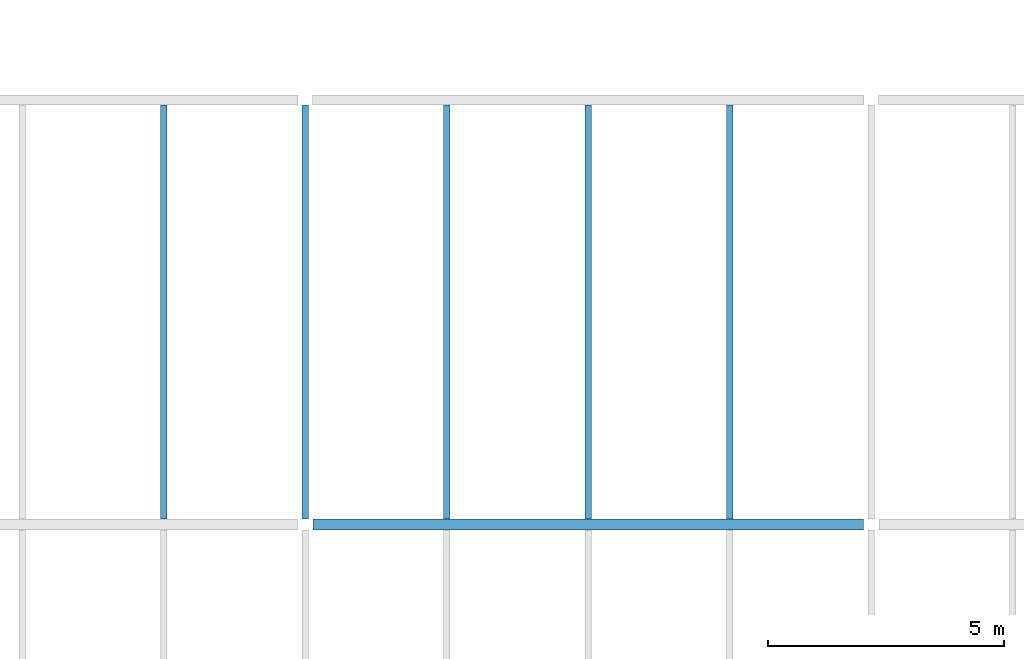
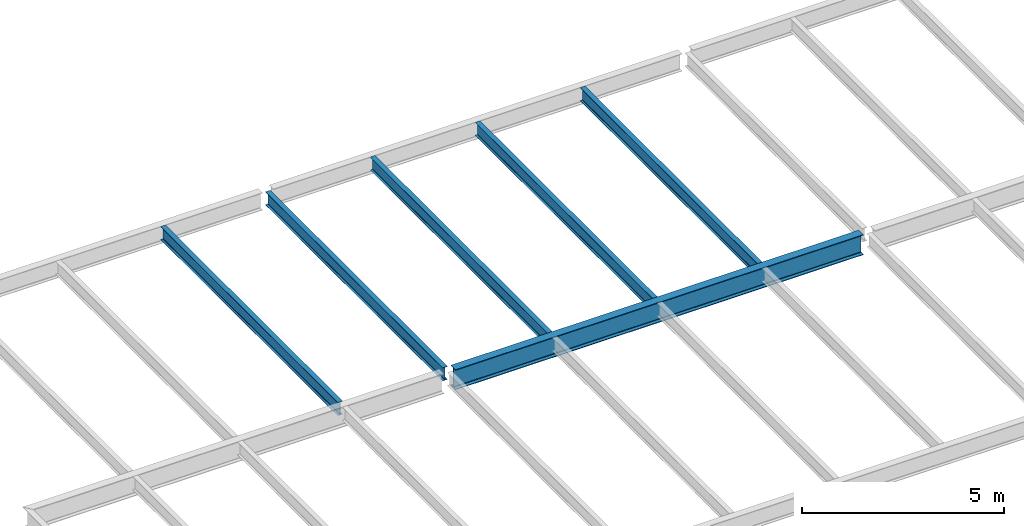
# One storey, part 12 of 21: 6 beams.
"""IFC2X3 building model written with IfcOpenShell, lengths in millimetres."""

import ifcopenshell
import ifcopenshell.guid

model = None  # the IFC model being written
_history = None  # IfcOwnerHistory: only IFC2X3 demands one
_inside = {}  # id of a spatial element -> (the spatial element, [elements in it])
_under = {}  # id of a project, library or spatial element -> (it, [spatial elements below it])
_declared = {}  # id of a project -> (the project, [libraries it declares])
_typed = {}  # id of a type object -> (the type object, [elements of that type])
_made_of = {}  # id of a material, layer set ... -> (it, [elements and type objects made of it])


def new_model(schema):
    """Start an empty IFC model of exactly this schema.

    Asked for "IFC4X3", IfcOpenShell would pick the latest addendum, in which some entities
    have other attributes; the version numbers below select the first issue.
    IFC2X3 requires an IfcOwnerHistory on every rooted entity: one is made here for all.
    """
    global model, _history
    if schema == "IFC4X3":
        model = ifcopenshell.file(schema_version=(4, 3, 0, 0))
    else:
        model = ifcopenshell.file(schema=schema)
    _inside.clear()
    _under.clear()
    _declared.clear()
    _typed.clear()
    _made_of.clear()
    _history = None
    if model.schema == "IFC2X3":
        org = make("IfcOrganization", Name="unknown")
        user = make(
            "IfcPersonAndOrganization",
            ThePerson=make("IfcPerson", FamilyName="unknown"),
            TheOrganization=org,
        )
        app = make(
            "IfcApplication",
            ApplicationDeveloper=org,
            Version="unknown",
            ApplicationFullName="unknown",
            ApplicationIdentifier="unknown",
        )
        _history = make(
            "IfcOwnerHistory",
            OwningUser=user,
            OwningApplication=app,
            ChangeAction="ADDED",
            CreationDate=0,
        )
    return model


def make(cls, **values):
    """One entity of the class cls with the attributes given. An attribute that is None is left unset."""
    return model.create_entity(
        cls, **{name: value for name, value in values.items() if value is not None}
    )


def rooted(cls, **values):
    """An entity with a GlobalId (a new one), such as an element, a storey or a relation."""
    return make(cls, GlobalId=ifcopenshell.guid.new(), OwnerHistory=_history, **values)


def si_unit(unit_type, name, prefix=None):
    """IfcSIUnit, for example si_unit("LENGTHUNIT", "METRE", prefix="MILLI")."""
    return make("IfcSIUnit", UnitType=unit_type, Prefix=prefix, Name=name)


def assignment(units):
    """IfcUnitAssignment: the units of a project."""
    return None if units is None else make("IfcUnitAssignment", Units=units)


def point(xyz):
    """IfcCartesianPoint."""
    return None if xyz is None else make("IfcCartesianPoint", Coordinates=xyz)


def direction(xyz):
    """IfcDirection."""
    return None if xyz is None else make("IfcDirection", DirectionRatios=xyz)


def frame(location, z_axis=None, x_axis=None):
    """IfcAxis2Placement3D, a coordinate frame: its origin and axes. An axis left out is left unset."""
    return make(
        "IfcAxis2Placement3D",
        Location=point(location),
        Axis=direction(z_axis),
        RefDirection=direction(x_axis),
    )


def origin():
    """The frame at (0, 0, 0) with its axes left unset."""
    return frame((0.0, 0.0, 0.0))


def place(relative_to, where):
    """IfcLocalPlacement: puts the frame where relative to a parent placement (None: the world)."""
    return make(
        "IfcLocalPlacement", PlacementRelTo=relative_to, RelativePlacement=where
    )


def context(
    kind, dimensions, precision=None, world=None, true_north=None, identifier=None
):
    """IfcGeometricRepresentationContext, for example the 3D "Model" context."""
    return make(
        "IfcGeometricRepresentationContext",
        ContextIdentifier=identifier,
        ContextType=kind,
        CoordinateSpaceDimension=dimensions,
        Precision=precision,
        WorldCoordinateSystem=world,
        TrueNorth=true_north,
    )


def project(units=None, contexts=None):
    """IfcProject with its units and contexts."""
    return rooted(
        "IfcProject",
        Name="project",
        RepresentationContexts=contexts,
        UnitsInContext=assignment(units),
    )


def spatial(cls, under=None, at=None, **own):
    """A site, building, storey or space (cls), placed at a placement, below another one or the project."""
    s = rooted(cls, ObjectPlacement=at, **own)
    if under is not None:
        _under.setdefault(under.id(), (under, []))[1].append(s)
    return s


def faces_of(points, faces, orient=None, outer=None):
    """IfcFace entities. A face is a list of loops; a loop is a list of indices into points, from 0.

    orient and outer hold one flag for each loop. By default every Orientation is true, the
    first loop of a face is its IfcFaceOuterBound and the others are IfcFaceBound.
    """
    made = []
    for i, loops in enumerate(faces):
        bounds = []
        for j, loop in enumerate(loops):
            is_outer = j == 0 if outer is None else outer[i][j]
            bounds.append(
                make(
                    "IfcFaceOuterBound" if is_outer else "IfcFaceBound",
                    Bound=make("IfcPolyLoop", Polygon=[points[k] for k in loop]),
                    Orientation=True if orient is None else orient[i][j],
                )
            )
        made.append(make("IfcFace", Bounds=bounds))
    return made


def faceted_brep(points, faces, orient=None, outer=None, voids=None):
    """IfcFacetedBrep: a solid bounded by flat faces; with voids (closed shells), ...WithVoids."""
    shared = [point(p) for p in points]
    hull = make("IfcClosedShell", CfsFaces=faces_of(shared, faces, orient, outer))
    if voids is None:
        return make("IfcFacetedBrep", Outer=hull)
    return make(
        "IfcFacetedBrepWithVoids",
        Outer=hull,
        Voids=[
            make(cls, CfsFaces=faces_of(shared, fs, o, b)) for cls, fs, o, b in voids
        ],
    )


def shape(context_of_items, identifier, shape_type, items):
    """IfcShapeRepresentation: the items that make up one representation, for example the "Body"."""
    return make(
        "IfcShapeRepresentation",
        ContextOfItems=context_of_items,
        RepresentationIdentifier=identifier,
        RepresentationType=shape_type,
        Items=items,
    )


def material(Name=None, Category=None):
    """IfcMaterial."""
    return make("IfcMaterial", Name=Name, Category=Category)


def made_of(thing, what):
    """Note that an element or type object is made of a material, layer set ...; save() writes the relation."""
    if what is not None:
        _made_of.setdefault(what.id(), (what, []))[1].append(thing)
    return thing


def element(
    cls,
    number,
    at=None,
    inside=None,
    cuts=None,
    type_object=None,
    material=None,
    context=None,
    identifier="Body",
    shape_type=None,
    held_by="IfcProductDefinitionShape",
    body=None,
    shapes=None,
    **own,
):
    """One element of the class cls, such as IfcWall. Its Tag is "e" and its number.

    at: its placement. inside: the storey or other place that contains it. cuts: it is an
    opening in that element (IfcRelVoidsElement). A single representation is given by context,
    identifier, shape_type and body (its items); several are given by shapes. held_by: the class
    of the entity that holds the representations. save() writes the other relations.
    """
    e = rooted(cls, Tag="e%d" % number, ObjectPlacement=at, **own)
    if body is not None:
        shapes = [shape(context, identifier, shape_type, body)]
    if shapes is not None:
        e.Representation = make(held_by, Representations=shapes)
    if inside is not None:
        _inside.setdefault(inside.id(), (inside, []))[1].append(e)
    if cuts is not None:
        rooted(
            "IfcRelVoidsElement", RelatingBuildingElement=cuts, RelatedOpeningElement=e
        )
    if type_object is not None:
        _typed.setdefault(type_object.id(), (type_object, []))[1].append(e)
    return made_of(e, material)


def aggregate(whole, parts):
    """IfcRelAggregates: a whole, such as a stair, and the parts it consists of."""
    return rooted("IfcRelAggregates", RelatingObject=whole, RelatedObjects=parts)


def save(model, path):
    """Write the relations noted so far, then the file.

    IfcRelAggregates (storeys below a building ...), IfcRelContainedInSpatialStructure (elements
    in a storey), IfcRelDefinesByType, IfcRelAssociatesMaterial and IfcRelDeclares: one each for
    every whole, place, type object, material and project.
    """
    for whole, parts in _under.values():
        aggregate(whole, parts)
    for where, things in _inside.values():
        rooted(
            "IfcRelContainedInSpatialStructure",
            RelatedElements=things,
            RelatingStructure=where,
        )
    for kind, things in _typed.values():
        rooted("IfcRelDefinesByType", RelatedObjects=things, RelatingType=kind)
    for what, things in _made_of.values():
        rooted("IfcRelAssociatesMaterial", RelatedObjects=things, RelatingMaterial=what)
    for by, libraries in _declared.values():
        rooted("IfcRelDeclares", RelatingContext=by, RelatedDefinitions=libraries)
    model.write(path)


model = new_model("IFC2X3")

# Units and contexts
context_of_model = context(None, 3, precision=1e-05, world=origin())
ifc_project = project(units=[si_unit("LENGTHUNIT", "METRE", prefix="MILLI")], contexts=[context_of_model])

# Building, storey
building = spatial("IfcBuilding", under=ifc_project, Name="Building", CompositionType="ELEMENT")
storey = spatial("IfcBuildingStorey", under=building, Name="FL3-FRM", CompositionType="ELEMENT")

# Beams
ifc_material_1 = material(Name="A992")
beam_1_placement = place(None, origin())
element("IfcBeam", 1, at=beam_1_placement, inside=storey, material=ifc_material_1, Name="Column469", context=context_of_model, shape_type="Brep", body=[
    faceted_brep([(24166.5, 17885.5, 8261.0), (24166.5, 18114.5, 8261.0), (35833.5, 18114.5, 8261.0), (35833.5, 17885.5, 8261.0), (24166.5, 18114.5, 8280.6), (35833.5, 18114.5, 8280.6), (24166.5, 18018.6, 8280.6), (35833.5, 18018.6, 8280.6), (24166.5, 18015.4, 8281.03), (35833.5, 18015.4, 8281.03), (24166.5, 18012.3, 8282.3), (35833.5, 18012.3, 8282.3), (24166.5, 18009.7, 8284.32), (35833.5, 18009.7, 8284.32), (24166.5, 18007.7, 8286.95), (35833.5, 18007.7, 8286.95), (24166.5, 18006.4, 8290.01), (35833.5, 18006.4, 8290.01), (24166.5, 18005.9, 8293.3), (35833.5, 18005.9, 8293.3), (24166.5, 18005.9, 8840.7), (35833.5, 18005.9, 8840.7), (24166.5, 18006.4, 8843.99), (35833.5, 18006.4, 8843.99), (24166.5, 18007.7, 8847.05), (35833.5, 18007.7, 8847.05), (24166.5, 18009.7, 8849.68), (35833.5, 18009.7, 8849.68), (24166.5, 18012.3, 8851.7), (35833.5, 18012.3, 8851.7), (24166.5, 18015.4, 8852.97), (35833.5, 18015.4, 8852.97), (24166.5, 18018.6, 8853.4), (35833.5, 18018.6, 8853.4), (24166.5, 18114.5, 8853.4), (35833.5, 18114.5, 8853.4), (24166.5, 18114.5, 8873.0), (35833.5, 18114.5, 8873.0), (24166.5, 17885.5, 8873.0), (35833.5, 17885.5, 8873.0), (24166.5, 17885.5, 8853.4), (35833.5, 17885.5, 8853.4), (24166.5, 17981.4, 8853.4), (35833.5, 17981.4, 8853.4), (24166.5, 17984.6, 8852.97), (35833.5, 17984.6, 8852.97), (24166.5, 17987.7, 8851.7), (35833.5, 17987.7, 8851.7), (24166.5, 17990.3, 8849.68), (35833.5, 17990.3, 8849.68), (24166.5, 17992.3, 8847.05), (35833.5, 17992.3, 8847.05), (24166.5, 17993.6, 8843.99), (35833.5, 17993.6, 8843.99), (24166.5, 17994.1, 8840.7), (35833.5, 17994.1, 8840.7), (24166.5, 17994.1, 8293.3), (35833.5, 17994.1, 8293.3), (24166.5, 17993.6, 8290.01), (35833.5, 17993.6, 8290.01), (24166.5, 17992.3, 8286.95), (35833.5, 17992.3, 8286.95), (24166.5, 17990.3, 8284.32), (35833.5, 17990.3, 8284.32), (24166.5, 17987.7, 8282.3), (35833.5, 17987.7, 8282.3), (24166.5, 17984.6, 8281.03), (35833.5, 17984.6, 8281.03), (24166.5, 17981.4, 8280.6), (35833.5, 17981.4, 8280.6), (24166.5, 17885.5, 8280.6), (35833.5, 17885.5, 8280.6)], [[[0, 1, 2, 3]], [[1, 4, 5, 2]], [[4, 6, 7, 5]], [[6, 8, 9, 7]], [[8, 10, 11, 9]], [[10, 12, 13, 11]], [[12, 14, 15, 13]], [[14, 16, 17, 15]], [[16, 18, 19, 17]], [[18, 20, 21, 19]], [[20, 22, 23, 21]], [[22, 24, 25, 23]], [[24, 26, 27, 25]], [[26, 28, 29, 27]], [[28, 30, 31, 29]], [[30, 32, 33, 31]], [[32, 34, 35, 33]], [[34, 36, 37, 35]], [[36, 38, 39, 37]], [[38, 40, 41, 39]], [[40, 42, 43, 41]], [[42, 44, 45, 43]], [[44, 46, 47, 45]], [[46, 48, 49, 47]], [[48, 50, 51, 49]], [[50, 52, 53, 51]], [[52, 54, 55, 53]], [[54, 56, 57, 55]], [[56, 58, 59, 57]], [[58, 60, 61, 59]], [[60, 62, 63, 61]], [[62, 64, 65, 63]], [[64, 66, 67, 65]], [[66, 68, 69, 67]], [[68, 70, 71, 69]], [[70, 0, 3, 71]], [[0, 70, 68, 66, 64, 62, 60, 58, 56, 54, 52, 50, 48, 46, 44, 42, 40, 38, 36, 34, 32, 30, 28, 26, 24, 22, 20, 18, 16, 14, 12, 10, 8, 6, 4, 1]], [[3, 2, 5, 7, 9, 11, 13, 15, 17, 19, 21, 23, 25, 27, 29, 31, 33, 35, 37, 39, 41, 43, 45, 47, 49, 51, 53, 55, 57, 59, 61, 63, 65, 67, 69, 71]]]),
])
ifc_material_2 = material(Name="A992")
beam_2_placement = place(None, origin())
element("IfcBeam", 2, at=beam_2_placement, inside=storey, material=ifc_material_2, Name="B447", context=context_of_model, shape_type="Brep", body=[
    faceted_brep([(26930.0, 26895.5, 8474.0), (27070.0, 26895.5, 8474.0), (27070.0, 18114.5, 8474.0), (26930.0, 18114.5, 8474.0), (27070.0, 26895.5, 8482.8), (27070.0, 18114.5, 8482.8), (27013.4, 26895.5, 8482.8), (27013.4, 18114.5, 8482.8), (27010.8, 26895.5, 8483.15), (27010.8, 18114.5, 8483.15), (27008.3, 26895.5, 8484.17), (27008.3, 18114.5, 8484.17), (27006.2, 26895.5, 8485.79), (27006.2, 18114.5, 8485.79), (27004.6, 26895.5, 8487.9), (27004.6, 18114.5, 8487.9), (27003.5, 26895.5, 8490.36), (27003.5, 18114.5, 8490.36), (27003.2, 26895.5, 8493.0), (27003.2, 18114.5, 8493.0), (27003.2, 26895.5, 8854.0), (27003.2, 18114.5, 8854.0), (27003.5, 26895.5, 8856.64), (27003.5, 18114.5, 8856.64), (27004.6, 26895.5, 8859.1), (27004.6, 18114.5, 8859.1), (27006.2, 26895.5, 8861.21), (27006.2, 18114.5, 8861.21), (27008.3, 26895.5, 8862.83), (27008.3, 18114.5, 8862.83), (27010.8, 26895.5, 8863.85), (27010.8, 18114.5, 8863.85), (27013.4, 26895.5, 8864.2), (27013.4, 18114.5, 8864.2), (27070.0, 26895.5, 8864.2), (27070.0, 18114.5, 8864.2), (27070.0, 26895.5, 8873.0), (27070.0, 18114.5, 8873.0), (26930.0, 26895.5, 8873.0), (26930.0, 18114.5, 8873.0), (26930.0, 26895.5, 8864.2), (26930.0, 18114.5, 8864.2), (26986.6, 26895.5, 8864.2), (26986.6, 18114.5, 8864.2), (26989.2, 26895.5, 8863.85), (26989.2, 18114.5, 8863.85), (26991.7, 26895.5, 8862.83), (26991.7, 18114.5, 8862.83), (26993.8, 26895.5, 8861.21), (26993.8, 18114.5, 8861.21), (26995.4, 26895.5, 8859.1), (26995.4, 18114.5, 8859.1), (26996.5, 26895.5, 8856.64), (26996.5, 18114.5, 8856.64), (26996.8, 26895.5, 8854.0), (26996.8, 18114.5, 8854.0), (26996.8, 26895.5, 8493.0), (26996.8, 18114.5, 8493.0), (26996.5, 26895.5, 8490.36), (26996.5, 18114.5, 8490.36), (26995.4, 26895.5, 8487.9), (26995.4, 18114.5, 8487.9), (26993.8, 26895.5, 8485.79), (26993.8, 18114.5, 8485.79), (26991.7, 26895.5, 8484.17), (26991.7, 18114.5, 8484.17), (26989.2, 26895.5, 8483.15), (26989.2, 18114.5, 8483.15), (26986.6, 26895.5, 8482.8), (26986.6, 18114.5, 8482.8), (26930.0, 26895.5, 8482.8), (26930.0, 18114.5, 8482.8)], [[[0, 1, 2, 3]], [[1, 4, 5, 2]], [[4, 6, 7, 5]], [[6, 8, 9, 7]], [[8, 10, 11, 9]], [[10, 12, 13, 11]], [[12, 14, 15, 13]], [[14, 16, 17, 15]], [[16, 18, 19, 17]], [[18, 20, 21, 19]], [[20, 22, 23, 21]], [[22, 24, 25, 23]], [[24, 26, 27, 25]], [[26, 28, 29, 27]], [[28, 30, 31, 29]], [[30, 32, 33, 31]], [[32, 34, 35, 33]], [[34, 36, 37, 35]], [[36, 38, 39, 37]], [[38, 40, 41, 39]], [[40, 42, 43, 41]], [[42, 44, 45, 43]], [[44, 46, 47, 45]], [[46, 48, 49, 47]], [[48, 50, 51, 49]], [[50, 52, 53, 51]], [[52, 54, 55, 53]], [[54, 56, 57, 55]], [[56, 58, 59, 57]], [[58, 60, 61, 59]], [[60, 62, 63, 61]], [[62, 64, 65, 63]], [[64, 66, 67, 65]], [[66, 68, 69, 67]], [[68, 70, 71, 69]], [[70, 0, 3, 71]], [[0, 70, 68, 66, 64, 62, 60, 58, 56, 54, 52, 50, 48, 46, 44, 42, 40, 38, 36, 34, 32, 30, 28, 26, 24, 22, 20, 18, 16, 14, 12, 10, 8, 6, 4, 1]], [[3, 2, 5, 7, 9, 11, 13, 15, 17, 19, 21, 23, 25, 27, 29, 31, 33, 35, 37, 39, 41, 43, 45, 47, 49, 51, 53, 55, 57, 59, 61, 63, 65, 67, 69, 71]]]),
])
ifc_material_3 = material(Name="A992")
beam_3_placement = place(None, origin())
element("IfcBeam", 3, at=beam_3_placement, inside=storey, material=ifc_material_3, Name="B450", context=context_of_model, shape_type="Brep", body=[
    faceted_brep([(29930.0, 26895.5, 8474.0), (30070.0, 26895.5, 8474.0), (30070.0, 18114.5, 8474.0), (29930.0, 18114.5, 8474.0), (30070.0, 26895.5, 8482.8), (30070.0, 18114.5, 8482.8), (30013.4, 26895.5, 8482.8), (30013.4, 18114.5, 8482.8), (30010.8, 26895.5, 8483.15), (30010.8, 18114.5, 8483.15), (30008.3, 26895.5, 8484.17), (30008.3, 18114.5, 8484.17), (30006.2, 26895.5, 8485.79), (30006.2, 18114.5, 8485.79), (30004.6, 26895.5, 8487.9), (30004.6, 18114.5, 8487.9), (30003.5, 26895.5, 8490.36), (30003.5, 18114.5, 8490.36), (30003.2, 26895.5, 8493.0), (30003.2, 18114.5, 8493.0), (30003.2, 26895.5, 8854.0), (30003.2, 18114.5, 8854.0), (30003.5, 26895.5, 8856.64), (30003.5, 18114.5, 8856.64), (30004.6, 26895.5, 8859.1), (30004.6, 18114.5, 8859.1), (30006.2, 26895.5, 8861.21), (30006.2, 18114.5, 8861.21), (30008.3, 26895.5, 8862.83), (30008.3, 18114.5, 8862.83), (30010.8, 26895.5, 8863.85), (30010.8, 18114.5, 8863.85), (30013.4, 26895.5, 8864.2), (30013.4, 18114.5, 8864.2), (30070.0, 26895.5, 8864.2), (30070.0, 18114.5, 8864.2), (30070.0, 26895.5, 8873.0), (30070.0, 18114.5, 8873.0), (29930.0, 26895.5, 8873.0), (29930.0, 18114.5, 8873.0), (29930.0, 26895.5, 8864.2), (29930.0, 18114.5, 8864.2), (29986.6, 26895.5, 8864.2), (29986.6, 18114.5, 8864.2), (29989.2, 26895.5, 8863.85), (29989.2, 18114.5, 8863.85), (29991.7, 26895.5, 8862.83), (29991.7, 18114.5, 8862.83), (29993.8, 26895.5, 8861.21), (29993.8, 18114.5, 8861.21), (29995.4, 26895.5, 8859.1), (29995.4, 18114.5, 8859.1), (29996.5, 26895.5, 8856.64), (29996.5, 18114.5, 8856.64), (29996.8, 26895.5, 8854.0), (29996.8, 18114.5, 8854.0), (29996.8, 26895.5, 8493.0), (29996.8, 18114.5, 8493.0), (29996.5, 26895.5, 8490.36), (29996.5, 18114.5, 8490.36), (29995.4, 26895.5, 8487.9), (29995.4, 18114.5, 8487.9), (29993.8, 26895.5, 8485.79), (29993.8, 18114.5, 8485.79), (29991.7, 26895.5, 8484.17), (29991.7, 18114.5, 8484.17), (29989.2, 26895.5, 8483.15), (29989.2, 18114.5, 8483.15), (29986.6, 26895.5, 8482.8), (29986.6, 18114.5, 8482.8), (29930.0, 26895.5, 8482.8), (29930.0, 18114.5, 8482.8)], [[[0, 1, 2, 3]], [[1, 4, 5, 2]], [[4, 6, 7, 5]], [[6, 8, 9, 7]], [[8, 10, 11, 9]], [[10, 12, 13, 11]], [[12, 14, 15, 13]], [[14, 16, 17, 15]], [[16, 18, 19, 17]], [[18, 20, 21, 19]], [[20, 22, 23, 21]], [[22, 24, 25, 23]], [[24, 26, 27, 25]], [[26, 28, 29, 27]], [[28, 30, 31, 29]], [[30, 32, 33, 31]], [[32, 34, 35, 33]], [[34, 36, 37, 35]], [[36, 38, 39, 37]], [[38, 40, 41, 39]], [[40, 42, 43, 41]], [[42, 44, 45, 43]], [[44, 46, 47, 45]], [[46, 48, 49, 47]], [[48, 50, 51, 49]], [[50, 52, 53, 51]], [[52, 54, 55, 53]], [[54, 56, 57, 55]], [[56, 58, 59, 57]], [[58, 60, 61, 59]], [[60, 62, 63, 61]], [[62, 64, 65, 63]], [[64, 66, 67, 65]], [[66, 68, 69, 67]], [[68, 70, 71, 69]], [[70, 0, 3, 71]], [[0, 70, 68, 66, 64, 62, 60, 58, 56, 54, 52, 50, 48, 46, 44, 42, 40, 38, 36, 34, 32, 30, 28, 26, 24, 22, 20, 18, 16, 14, 12, 10, 8, 6, 4, 1]], [[3, 2, 5, 7, 9, 11, 13, 15, 17, 19, 21, 23, 25, 27, 29, 31, 33, 35, 37, 39, 41, 43, 45, 47, 49, 51, 53, 55, 57, 59, 61, 63, 65, 67, 69, 71]]]),
])
ifc_material_4 = material(Name="A992")
beam_4_placement = place(None, origin())
element("IfcBeam", 4, at=beam_4_placement, inside=storey, material=ifc_material_4, Name="B451", context=context_of_model, shape_type="Brep", body=[
    faceted_brep([(32930.0, 26895.5, 8474.0), (33070.0, 26895.5, 8474.0), (33070.0, 18114.5, 8474.0), (32930.0, 18114.5, 8474.0), (33070.0, 26895.5, 8482.8), (33070.0, 18114.5, 8482.8), (33013.4, 26895.5, 8482.8), (33013.4, 18114.5, 8482.8), (33010.8, 26895.5, 8483.15), (33010.8, 18114.5, 8483.15), (33008.3, 26895.5, 8484.17), (33008.3, 18114.5, 8484.17), (33006.2, 26895.5, 8485.79), (33006.2, 18114.5, 8485.79), (33004.6, 26895.5, 8487.9), (33004.6, 18114.5, 8487.9), (33003.5, 26895.5, 8490.36), (33003.5, 18114.5, 8490.36), (33003.2, 26895.5, 8493.0), (33003.2, 18114.5, 8493.0), (33003.2, 26895.5, 8854.0), (33003.2, 18114.5, 8854.0), (33003.5, 26895.5, 8856.64), (33003.5, 18114.5, 8856.64), (33004.6, 26895.5, 8859.1), (33004.6, 18114.5, 8859.1), (33006.2, 26895.5, 8861.21), (33006.2, 18114.5, 8861.21), (33008.3, 26895.5, 8862.83), (33008.3, 18114.5, 8862.83), (33010.8, 26895.5, 8863.85), (33010.8, 18114.5, 8863.85), (33013.4, 26895.5, 8864.2), (33013.4, 18114.5, 8864.2), (33070.0, 26895.5, 8864.2), (33070.0, 18114.5, 8864.2), (33070.0, 26895.5, 8873.0), (33070.0, 18114.5, 8873.0), (32930.0, 26895.5, 8873.0), (32930.0, 18114.5, 8873.0), (32930.0, 26895.5, 8864.2), (32930.0, 18114.5, 8864.2), (32986.6, 26895.5, 8864.2), (32986.6, 18114.5, 8864.2), (32989.2, 26895.5, 8863.85), (32989.2, 18114.5, 8863.85), (32991.7, 26895.5, 8862.83), (32991.7, 18114.5, 8862.83), (32993.8, 26895.5, 8861.21), (32993.8, 18114.5, 8861.21), (32995.4, 26895.5, 8859.1), (32995.4, 18114.5, 8859.1), (32996.5, 26895.5, 8856.64), (32996.5, 18114.5, 8856.64), (32996.8, 26895.5, 8854.0), (32996.8, 18114.5, 8854.0), (32996.8, 26895.5, 8493.0), (32996.8, 18114.5, 8493.0), (32996.5, 26895.5, 8490.36), (32996.5, 18114.5, 8490.36), (32995.4, 26895.5, 8487.9), (32995.4, 18114.5, 8487.9), (32993.8, 26895.5, 8485.79), (32993.8, 18114.5, 8485.79), (32991.7, 26895.5, 8484.17), (32991.7, 18114.5, 8484.17), (32989.2, 26895.5, 8483.15), (32989.2, 18114.5, 8483.15), (32986.6, 26895.5, 8482.8), (32986.6, 18114.5, 8482.8), (32930.0, 26895.5, 8482.8), (32930.0, 18114.5, 8482.8)], [[[0, 1, 2, 3]], [[1, 4, 5, 2]], [[4, 6, 7, 5]], [[6, 8, 9, 7]], [[8, 10, 11, 9]], [[10, 12, 13, 11]], [[12, 14, 15, 13]], [[14, 16, 17, 15]], [[16, 18, 19, 17]], [[18, 20, 21, 19]], [[20, 22, 23, 21]], [[22, 24, 25, 23]], [[24, 26, 27, 25]], [[26, 28, 29, 27]], [[28, 30, 31, 29]], [[30, 32, 33, 31]], [[32, 34, 35, 33]], [[34, 36, 37, 35]], [[36, 38, 39, 37]], [[38, 40, 41, 39]], [[40, 42, 43, 41]], [[42, 44, 45, 43]], [[44, 46, 47, 45]], [[46, 48, 49, 47]], [[48, 50, 51, 49]], [[50, 52, 53, 51]], [[52, 54, 55, 53]], [[54, 56, 57, 55]], [[56, 58, 59, 57]], [[58, 60, 61, 59]], [[60, 62, 63, 61]], [[62, 64, 65, 63]], [[64, 66, 67, 65]], [[66, 68, 69, 67]], [[68, 70, 71, 69]], [[70, 0, 3, 71]], [[0, 70, 68, 66, 64, 62, 60, 58, 56, 54, 52, 50, 48, 46, 44, 42, 40, 38, 36, 34, 32, 30, 28, 26, 24, 22, 20, 18, 16, 14, 12, 10, 8, 6, 4, 1]], [[3, 2, 5, 7, 9, 11, 13, 15, 17, 19, 21, 23, 25, 27, 29, 31, 33, 35, 37, 39, 41, 43, 45, 47, 49, 51, 53, 55, 57, 59, 61, 63, 65, 67, 69, 71]]]),
])
ifc_material_5 = material(Name="A992")
beam_5_placement = place(None, origin())
element("IfcBeam", 5, at=beam_5_placement, inside=storey, material=ifc_material_5, Name="B454", context=context_of_model, shape_type="Brep", body=[
    faceted_brep([(24070.0, 18114.5, 8474.0), (23930.0, 18114.5, 8474.0), (23930.0, 26895.5, 8474.0), (24070.0, 26895.5, 8474.0), (23930.0, 18114.5, 8482.8), (23930.0, 26895.5, 8482.8), (23986.6, 18114.5, 8482.8), (23986.6, 26895.5, 8482.8), (23989.2, 18114.5, 8483.15), (23989.2, 26895.5, 8483.15), (23991.7, 18114.5, 8484.17), (23991.7, 26895.5, 8484.17), (23993.8, 18114.5, 8485.79), (23993.8, 26895.5, 8485.79), (23995.4, 18114.5, 8487.9), (23995.4, 26895.5, 8487.9), (23996.5, 18114.5, 8490.36), (23996.5, 26895.5, 8490.36), (23996.8, 18114.5, 8493.0), (23996.8, 26895.5, 8493.0), (23996.8, 18114.5, 8854.0), (23996.8, 26895.5, 8854.0), (23996.5, 18114.5, 8856.64), (23996.5, 26895.5, 8856.64), (23995.4, 18114.5, 8859.1), (23995.4, 26895.5, 8859.1), (23993.8, 18114.5, 8861.21), (23993.8, 26895.5, 8861.21), (23991.7, 18114.5, 8862.83), (23991.7, 26895.5, 8862.83), (23989.2, 18114.5, 8863.85), (23989.2, 26895.5, 8863.85), (23986.6, 18114.5, 8864.2), (23986.6, 26895.5, 8864.2), (23930.0, 18114.5, 8864.2), (23930.0, 26895.5, 8864.2), (23930.0, 18114.5, 8873.0), (23930.0, 26895.5, 8873.0), (24070.0, 18114.5, 8873.0), (24070.0, 26895.5, 8873.0), (24070.0, 18114.5, 8864.2), (24070.0, 26895.5, 8864.2), (24013.4, 18114.5, 8864.2), (24013.4, 26895.5, 8864.2), (24010.8, 18114.5, 8863.85), (24010.8, 26895.5, 8863.85), (24008.3, 18114.5, 8862.83), (24008.3, 26895.5, 8862.83), (24006.2, 18114.5, 8861.21), (24006.2, 26895.5, 8861.21), (24004.6, 18114.5, 8859.1), (24004.6, 26895.5, 8859.1), (24003.5, 18114.5, 8856.64), (24003.5, 26895.5, 8856.64), (24003.2, 18114.5, 8854.0), (24003.2, 26895.5, 8854.0), (24003.2, 18114.5, 8493.0), (24003.2, 26895.5, 8493.0), (24003.5, 18114.5, 8490.36), (24003.5, 26895.5, 8490.36), (24004.6, 18114.5, 8487.9), (24004.6, 26895.5, 8487.9), (24006.2, 18114.5, 8485.79), (24006.2, 26895.5, 8485.79), (24008.3, 18114.5, 8484.17), (24008.3, 26895.5, 8484.17), (24010.8, 18114.5, 8483.15), (24010.8, 26895.5, 8483.15), (24013.4, 18114.5, 8482.8), (24013.4, 26895.5, 8482.8), (24070.0, 18114.5, 8482.8), (24070.0, 26895.5, 8482.8)], [[[0, 1, 2, 3]], [[1, 4, 5, 2]], [[4, 6, 7, 5]], [[6, 8, 9, 7]], [[8, 10, 11, 9]], [[10, 12, 13, 11]], [[12, 14, 15, 13]], [[14, 16, 17, 15]], [[16, 18, 19, 17]], [[18, 20, 21, 19]], [[20, 22, 23, 21]], [[22, 24, 25, 23]], [[24, 26, 27, 25]], [[26, 28, 29, 27]], [[28, 30, 31, 29]], [[30, 32, 33, 31]], [[32, 34, 35, 33]], [[34, 36, 37, 35]], [[36, 38, 39, 37]], [[38, 40, 41, 39]], [[40, 42, 43, 41]], [[42, 44, 45, 43]], [[44, 46, 47, 45]], [[46, 48, 49, 47]], [[48, 50, 51, 49]], [[50, 52, 53, 51]], [[52, 54, 55, 53]], [[54, 56, 57, 55]], [[56, 58, 59, 57]], [[58, 60, 61, 59]], [[60, 62, 63, 61]], [[62, 64, 65, 63]], [[64, 66, 67, 65]], [[66, 68, 69, 67]], [[68, 70, 71, 69]], [[70, 0, 3, 71]], [[0, 70, 68, 66, 64, 62, 60, 58, 56, 54, 52, 50, 48, 46, 44, 42, 40, 38, 36, 34, 32, 30, 28, 26, 24, 22, 20, 18, 16, 14, 12, 10, 8, 6, 4, 1]], [[3, 2, 5, 7, 9, 11, 13, 15, 17, 19, 21, 23, 25, 27, 29, 31, 33, 35, 37, 39, 41, 43, 45, 47, 49, 51, 53, 55, 57, 59, 61, 63, 65, 67, 69, 71]]]),
])
ifc_material_6 = material(Name="A992")
beam_6_placement = place(None, origin())
element("IfcBeam", 6, at=beam_6_placement, inside=storey, material=ifc_material_6, Name="B457", context=context_of_model, shape_type="Brep", body=[
    faceted_brep([(20930.0, 26895.5, 8474.0), (21070.0, 26895.5, 8474.0), (21070.0, 18114.5, 8474.0), (20930.0, 18114.5, 8474.0), (21070.0, 26895.5, 8482.8), (21070.0, 18114.5, 8482.8), (21013.4, 26895.5, 8482.8), (21013.4, 18114.5, 8482.8), (21010.8, 26895.5, 8483.15), (21010.8, 18114.5, 8483.15), (21008.3, 26895.5, 8484.17), (21008.3, 18114.5, 8484.17), (21006.2, 26895.5, 8485.79), (21006.2, 18114.5, 8485.79), (21004.6, 26895.5, 8487.9), (21004.6, 18114.5, 8487.9), (21003.5, 26895.5, 8490.36), (21003.5, 18114.5, 8490.36), (21003.2, 26895.5, 8493.0), (21003.2, 18114.5, 8493.0), (21003.2, 26895.5, 8854.0), (21003.2, 18114.5, 8854.0), (21003.5, 26895.5, 8856.64), (21003.5, 18114.5, 8856.64), (21004.6, 26895.5, 8859.1), (21004.6, 18114.5, 8859.1), (21006.2, 26895.5, 8861.21), (21006.2, 18114.5, 8861.21), (21008.3, 26895.5, 8862.83), (21008.3, 18114.5, 8862.83), (21010.8, 26895.5, 8863.85), (21010.8, 18114.5, 8863.85), (21013.4, 26895.5, 8864.2), (21013.4, 18114.5, 8864.2), (21070.0, 26895.5, 8864.2), (21070.0, 18114.5, 8864.2), (21070.0, 26895.5, 8873.0), (21070.0, 18114.5, 8873.0), (20930.0, 26895.5, 8873.0), (20930.0, 18114.5, 8873.0), (20930.0, 26895.5, 8864.2), (20930.0, 18114.5, 8864.2), (20986.6, 26895.5, 8864.2), (20986.6, 18114.5, 8864.2), (20989.2, 26895.5, 8863.85), (20989.2, 18114.5, 8863.85), (20991.7, 26895.5, 8862.83), (20991.7, 18114.5, 8862.83), (20993.8, 26895.5, 8861.21), (20993.8, 18114.5, 8861.21), (20995.4, 26895.5, 8859.1), (20995.4, 18114.5, 8859.1), (20996.5, 26895.5, 8856.64), (20996.5, 18114.5, 8856.64), (20996.8, 26895.5, 8854.0), (20996.8, 18114.5, 8854.0), (20996.8, 26895.5, 8493.0), (20996.8, 18114.5, 8493.0), (20996.5, 26895.5, 8490.36), (20996.5, 18114.5, 8490.36), (20995.4, 26895.5, 8487.9), (20995.4, 18114.5, 8487.9), (20993.8, 26895.5, 8485.79), (20993.8, 18114.5, 8485.79), (20991.7, 26895.5, 8484.17), (20991.7, 18114.5, 8484.17), (20989.2, 26895.5, 8483.15), (20989.2, 18114.5, 8483.15), (20986.6, 26895.5, 8482.8), (20986.6, 18114.5, 8482.8), (20930.0, 26895.5, 8482.8), (20930.0, 18114.5, 8482.8)], [[[0, 1, 2, 3]], [[1, 4, 5, 2]], [[4, 6, 7, 5]], [[6, 8, 9, 7]], [[8, 10, 11, 9]], [[10, 12, 13, 11]], [[12, 14, 15, 13]], [[14, 16, 17, 15]], [[16, 18, 19, 17]], [[18, 20, 21, 19]], [[20, 22, 23, 21]], [[22, 24, 25, 23]], [[24, 26, 27, 25]], [[26, 28, 29, 27]], [[28, 30, 31, 29]], [[30, 32, 33, 31]], [[32, 34, 35, 33]], [[34, 36, 37, 35]], [[36, 38, 39, 37]], [[38, 40, 41, 39]], [[40, 42, 43, 41]], [[42, 44, 45, 43]], [[44, 46, 47, 45]], [[46, 48, 49, 47]], [[48, 50, 51, 49]], [[50, 52, 53, 51]], [[52, 54, 55, 53]], [[54, 56, 57, 55]], [[56, 58, 59, 57]], [[58, 60, 61, 59]], [[60, 62, 63, 61]], [[62, 64, 65, 63]], [[64, 66, 67, 65]], [[66, 68, 69, 67]], [[68, 70, 71, 69]], [[70, 0, 3, 71]], [[0, 70, 68, 66, 64, 62, 60, 58, 56, 54, 52, 50, 48, 46, 44, 42, 40, 38, 36, 34, 32, 30, 28, 26, 24, 22, 20, 18, 16, 14, 12, 10, 8, 6, 4, 1]], [[3, 2, 5, 7, 9, 11, 13, 15, 17, 19, 21, 23, 25, 27, 29, 31, 33, 35, 37, 39, 41, 43, 45, 47, 49, 51, 53, 55, 57, 59, 61, 63, 65, 67, 69, 71]]]),
])

save(model, "model.ifc")
